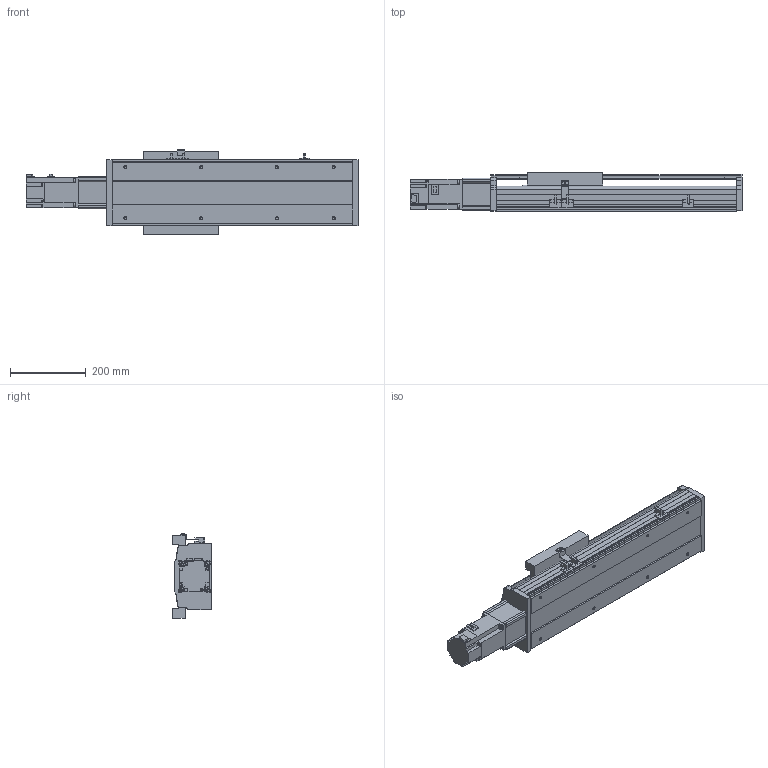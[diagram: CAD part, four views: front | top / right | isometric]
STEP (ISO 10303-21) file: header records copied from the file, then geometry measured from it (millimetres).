
FILE_DESCRIPTION(/* description */ ('STEP AP214'),/* implementation_level */ '2;1');
FILE_NAME(/* name */ 'PSS200-L10-S300-BC-T75-C1-N(0)',/* time_stamp */ '2022-06-06T04:33:48+02:00',/* author */ ('License CC BY-ND 4.0'),/* organization */ ('CADENAS'),/* preprocessor_version */ 'ST-DEVELOPER v18.102',/* originating_system */ 'PARTsolutions',/* authorisation */ ' ');
FILE_SCHEMA (('AUTOMOTIVE_DESIGN {1 0 10303 214 3 1 1}'));
Length unit declared in the file: millimetre
Products named in the file (8): PSS200-L10-S300-BC-T75-C1-N(0); PSS200-S300-BC-N_S; T75-p1; PSS200BC-N_h; PSS200-N_sensor; PSS200-BC-C1-N_sl; PSS200-N_Q; PSS200-S300-BC-C1-N_body
Assembly tree (9 placements, depth 2):
  PSS200-L10-S300-BC-T75-C1-N(0)
    PSS200-S300-BC-N_S
    T75-p1
    PSS200BC-N_h
    PSS200-N_sensor  x3
    PSS200-BC-C1-N_sl
    PSS200-N_Q
    PSS200-S300-BC-C1-N_body
Bounding box: 876.3 x 101.5 x 223.86 mm (x, y, z)
Volume: 5480398.2 mm3; surface area: 1241965.3 mm2
Topology: 9 solids, 9 shells, 569 faces, 1519 edges, 1008 vertices
Faces by surface type: plane 439, cylinder 114, cone 16
Full cylindrical faces by diameter (mm): 4 x2, 4.5 x4, 6 x11, 6.647 x12, 8 x8, 10 x6, 25 x1, 67 x1, 70 x1
Entity records: 15842 total; most frequent: CARTESIAN_POINT 2748, ORIENTED_EDGE 2606, DIRECTION 2601, EDGE_CURVE 1303, LINE 1051, VECTOR 1051, VERTEX_POINT 902, AXIS2_PLACEMENT_3D 775
